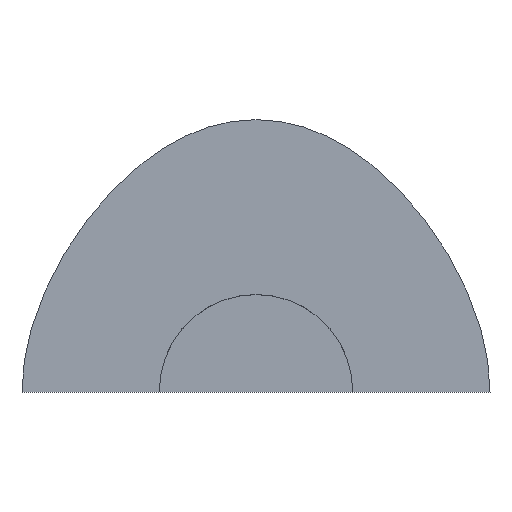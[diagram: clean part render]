
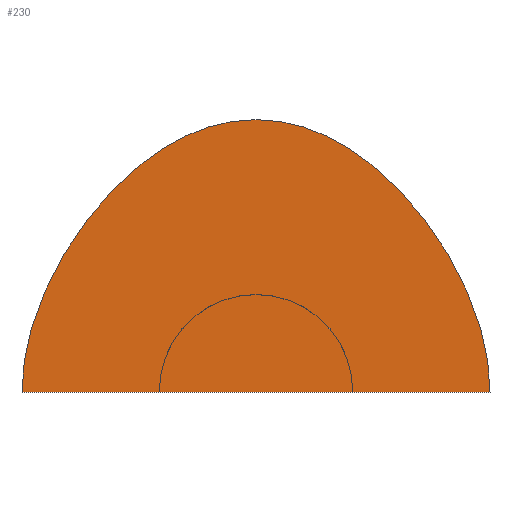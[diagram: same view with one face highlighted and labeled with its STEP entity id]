
A CAD part, top view. The second image highlights one B-rep face of the part: STEP entity #230.
In plain terms, the highlighted planar face has unit normal (0, 0, 1).
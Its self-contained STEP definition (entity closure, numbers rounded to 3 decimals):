
#193=CARTESIAN_POINT('Axis2P3D Location',(0.,57.296,0.)) ;
#198=CARTESIAN_POINT('Line Origine',(0.,0.,0.)) ;
#202=CARTESIAN_POINT('Vertex',(-121.,0.,0.)) ;
#204=CARTESIAN_POINT('Vertex',(121.,0.,0.)) ;
#208=CARTESIAN_POINT('Control Point',(0.,141.,0.)) ;
#209=CARTESIAN_POINT('Control Point',(37.16,141.,0.)) ;
#210=CARTESIAN_POINT('Control Point',(72.055,119.685,0.)) ;
#211=CARTESIAN_POINT('Control Point',(104.685,77.055,0.)) ;
#212=CARTESIAN_POINT('Control Point',(121.,37.16,0.)) ;
#213=CARTESIAN_POINT('Control Point',(121.,0.,0.)) ;
#214=CARTESIAN_POINT('Vertex',(0.,141.,0.)) ;
#218=CARTESIAN_POINT('Control Point',(0.,141.,0.)) ;
#219=CARTESIAN_POINT('Control Point',(-37.16,141.,0.)) ;
#220=CARTESIAN_POINT('Control Point',(-72.055,119.685,0.)) ;
#221=CARTESIAN_POINT('Control Point',(-104.685,77.055,0.)) ;
#222=CARTESIAN_POINT('Control Point',(-121.,37.16,0.)) ;
#223=CARTESIAN_POINT('Control Point',(-121.,0.,0.)) ;
#194=DIRECTION('Axis2P3D Direction',(0.,0.,1.)) ;
#195=DIRECTION('Axis2P3D XDirection',(1.,0.,0.)) ;
#199=DIRECTION('Vector Direction',(1.,0.,0.)) ;
#196=AXIS2_PLACEMENT_3D('Plane Axis2P3D',#193,#194,#195) ;
#226=ORIENTED_EDGE('',*,*,#206,.T.) ;
#227=ORIENTED_EDGE('',*,*,#216,.T.) ;
#228=ORIENTED_EDGE('',*,*,#224,.T.) ;
#200=VECTOR('Line Direction',#199,1.) ;
#230=ADVANCED_FACE('Fill.1',(#229),#197,.T.) ;
#207=B_SPLINE_CURVE_WITH_KNOTS('',5,(#208,#209,#210,#211,#212,#213),.UNSPECIFIED.,.F.,.U.,(6,6),(0.,185.801),.UNSPECIFIED.) ;
#217=B_SPLINE_CURVE_WITH_KNOTS('',5,(#218,#219,#220,#221,#222,#223),.UNSPECIFIED.,.F.,.U.,(6,6),(0.,185.801),.UNSPECIFIED.) ;
#206=EDGE_CURVE('',#203,#205,#201,.T.) ;
#216=EDGE_CURVE('',#205,#215,#207,.F.) ;
#224=EDGE_CURVE('',#215,#203,#217,.T.) ;
#225=EDGE_LOOP('',(#226,#227,#228)) ;
#229=FACE_OUTER_BOUND('',#225,.T.) ;
#201=LINE('Line',#198,#200) ;
#197=PLANE('',#196) ;
#203=VERTEX_POINT('',#202) ;
#205=VERTEX_POINT('',#204) ;
#215=VERTEX_POINT('',#214) ;
